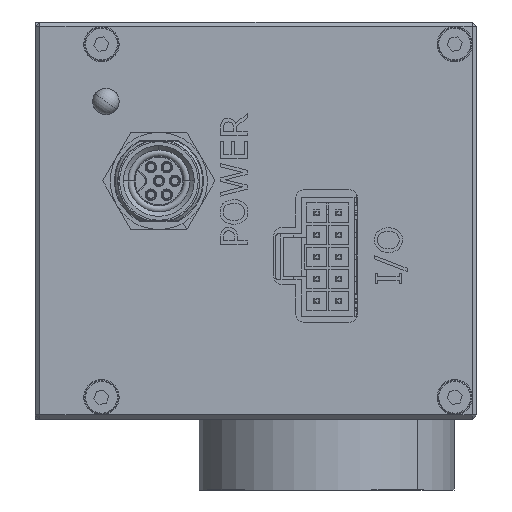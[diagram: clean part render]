
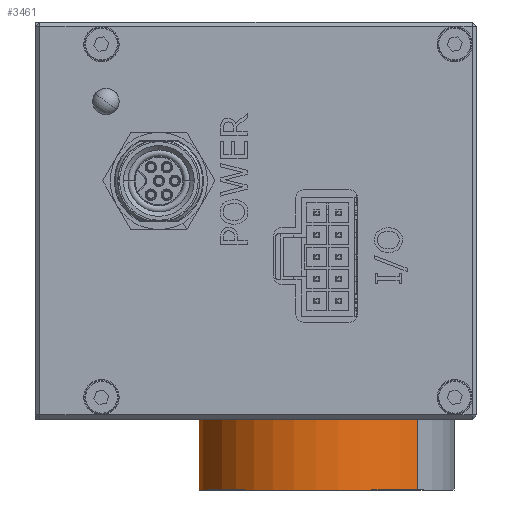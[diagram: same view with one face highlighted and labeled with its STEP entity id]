
A CAD part, left-side view. The second image highlights one B-rep face of the part: STEP entity #3461.
In plain terms, the highlighted cylindrical face has radius 14.5 mm (diameter 29 mm), a partial arc.
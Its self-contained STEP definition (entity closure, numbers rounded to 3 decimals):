
#772 = LINE ( 'NONE', #41399, #28506 ) ;
#811 = CIRCLE ( 'NONE', #34918, 14.5 ) ;
#2013 = LINE ( 'NONE', #17898, #50904 ) ;
#3461 = ADVANCED_FACE ( 'NONE', ( #35233 ), #23531, .T. ) ;
#3672 = AXIS2_PLACEMENT_3D ( 'NONE', #6866, #39405, #3716 ) ;
#3716 = DIRECTION ( 'NONE',  ( -1., 0., 0. ) ) ;
#6532 = EDGE_CURVE ( 'NONE', #23178, #14173, #2013, .T. ) ;
#6866 = CARTESIAN_POINT ( 'NONE',  ( 0., 0., 12. ) ) ;
#9729 = DIRECTION ( 'NONE',  ( 0., 0., -1. ) ) ;
#13385 = ORIENTED_EDGE ( 'NONE', *, *, #44338, .F. ) ;
#14085 = CIRCLE ( 'NONE', #29101, 14.5 ) ;
#14173 = VERTEX_POINT ( 'NONE', #33033 ) ;
#14721 = DIRECTION ( 'NONE',  ( 1., 0., 0. ) ) ;
#14874 = CARTESIAN_POINT ( 'NONE',  ( -14.5, 0., 12. ) ) ;
#16993 = ORIENTED_EDGE ( 'NONE', *, *, #48802, .F. ) ;
#17780 = DIRECTION ( 'NONE',  ( -1., 0., 0. ) ) ;
#17898 = CARTESIAN_POINT ( 'NONE',  ( 14.5, 0., 12. ) ) ;
#18987 = EDGE_CURVE ( 'NONE', #23178, #45933, #14085, .T. ) ;
#19579 = CARTESIAN_POINT ( 'NONE',  ( -14.5, 0., 4. ) ) ;
#23178 = VERTEX_POINT ( 'NONE', #23569 ) ;
#23531 = CYLINDRICAL_SURFACE ( 'NONE', #3672, 14.5 ) ;
#23569 = CARTESIAN_POINT ( 'NONE',  ( 14.5, 0., 12. ) ) ;
#25241 = DIRECTION ( 'NONE',  ( 0., 0., -1. ) ) ;
#25467 = CARTESIAN_POINT ( 'NONE',  ( 0., 0., 12. ) ) ;
#28506 = VECTOR ( 'NONE', #25241, 1000. ) ;
#29101 = AXIS2_PLACEMENT_3D ( 'NONE', #25467, #41368, #14721 ) ;
#33033 = CARTESIAN_POINT ( 'NONE',  ( 14.5, 0., 4. ) ) ;
#34918 = AXIS2_PLACEMENT_3D ( 'NONE', #45395, #9729, #17780 ) ;
#35233 = FACE_OUTER_BOUND ( 'NONE', #39544, .T. ) ;
#35725 = VERTEX_POINT ( 'NONE', #19579 ) ;
#37961 = DIRECTION ( 'NONE',  ( 0., 0., -1. ) ) ;
#38306 = ORIENTED_EDGE ( 'NONE', *, *, #6532, .T. ) ;
#39405 = DIRECTION ( 'NONE',  ( 0., 0., -1. ) ) ;
#39544 = EDGE_LOOP ( 'NONE', ( #42041, #38306, #13385, #16993 ) ) ;
#41368 = DIRECTION ( 'NONE',  ( 0., 0., 1. ) ) ;
#41399 = CARTESIAN_POINT ( 'NONE',  ( -14.5, 0., 12. ) ) ;
#42041 = ORIENTED_EDGE ( 'NONE', *, *, #18987, .F. ) ;
#44338 = EDGE_CURVE ( 'NONE', #35725, #14173, #811, .T. ) ;
#45395 = CARTESIAN_POINT ( 'NONE',  ( 0., 0., 4. ) ) ;
#45933 = VERTEX_POINT ( 'NONE', #14874 ) ;
#48802 = EDGE_CURVE ( 'NONE', #45933, #35725, #772, .T. ) ;
#50904 = VECTOR ( 'NONE', #37961, 1000. ) ;
